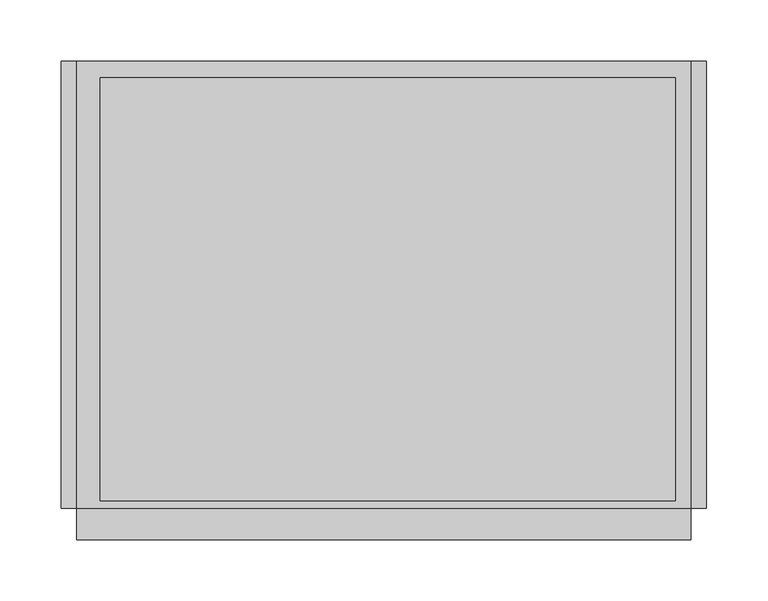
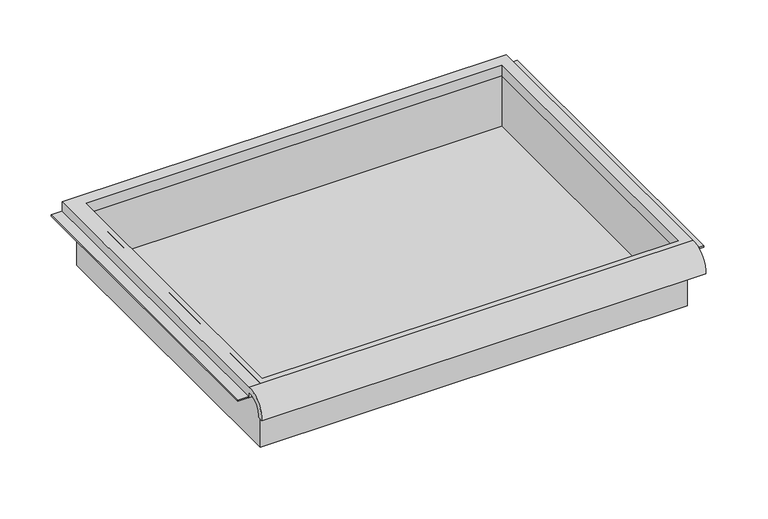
"""IFC4 building model written with IfcOpenShell, lengths in millimetres: furniture geometry."""

from ifc_helpers import new_model, si_unit, frame, origin, place, context, project, spatial, polyline, circle_curve, faceted_brep, source, transform, mapped, element, save
from ifc_brep_helpers import plane_surface, cylinder_surface, revolved_surface, advanced_brep


def furniture_c484342d(model_context):
    return source(origin(), model_context, "Body", "SolidModel", [
        advanced_brep(
        [(263.7474999, -195.297482, 967.5849518), (263.7474999, -188.9125, 967.5849518), (263.7474999, -169.8625, 985.846425), (263.7474999, -169.8625, 979.4964246), (263.7474999, 195.2625, 979.4964246), (263.7474999, 195.2625, 992.196425), (263.7474999, -169.8625, 992.196425), (-237.9025001, -195.297482, 967.5849518), (-237.9025001, -169.8625, 992.196425), (-237.9025001, 195.2625, 992.196425), (-237.9025001, 195.2625, 979.4964246), (-237.9025001, -169.8625, 979.4964246), (-237.9025001, -169.8625, 985.846425), (-237.9025001, -188.9125, 967.5849518), (251.0474878, 181.9275, 979.4964246), (-218.8095642, 181.9275, 979.4964246), (-218.8095642, -163.5125, 979.4964246), (251.0474878, -163.5125, 979.4964246), (-218.8095642, 181.9275, 992.196425), (251.0474878, 181.9275, 992.196425), (251.0474878, -163.5125, 992.196425), (-218.8095642, -163.5125, 992.196425)],
        [
            (0, 1),
            (1, 2, circle_curve(frame((263.7474999, -172.3404634, 969.3643622), z_axis=(-1.0, 0.0, 0.0), x_axis=(0.0, 1.0, 0.0)), 16.6672942)),
            (2, 3),
            (3, 4),
            (4, 5),
            (5, 6),
            (6, 0, circle_curve(frame((263.7474999, -172.4601678, 969.4322522), z_axis=(1.0, 0.0, 0.0), x_axis=(0.0, 1.0, 0.0)), 22.9119061)),
            (7, 8, circle_curve(frame((-237.9025001, -172.4601678, 969.4322522), z_axis=(-1.0, 0.0, 0.0), x_axis=(0.0, 1.0, 0.0)), 22.9119061)),
            (8, 9),
            (9, 10),
            (10, 11),
            (11, 12),
            (12, 13, circle_curve(frame((-237.9025001, -172.3404634, 969.3643622), z_axis=(1.0, 0.0, 0.0), x_axis=(0.0, 1.0, 0.0)), 16.6672942)),
            (13, 7),
            (0, 7),
            (13, 1),
            (12, 2),
            (11, 3),
            (10, 4),
            (14, 15),
            (15, 16),
            (16, 17),
            (17, 14),
            (9, 5),
            (8, 6),
            (18, 19),
            (19, 20),
            (20, 21),
            (21, 18),
            (14, 19),
            (18, 15),
            (21, 16),
            (20, 17),
        ],
        [
            plane_surface(frame((263.7474999, -195.297482, 967.5849518), z_axis=(1.0, 0.0, 0.0), x_axis=(0.0, 1.0, 0.0))),
            plane_surface(frame((-237.9025001, -195.297482, 967.5849518), z_axis=(-1.0, 0.0, 0.0), x_axis=(0.0, -1.0, 0.0))),
            plane_surface(frame((263.7474999, -195.297482, 967.5849518), z_axis=(0.0, 0.0, -1.0), x_axis=(-1.0, 0.0, 0.0))),
            revolved_surface(polyline([(-237.9025001, -155.67316920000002, 969.3643622), (263.7474999, -155.67316920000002, 969.3643622)]), (-237.9025001, -172.3404634, 969.3643622), (-1.0, 0.0, 0.0)),
            plane_surface(frame((263.7474999, -169.8625, 985.846425), z_axis=(0.0, -1.0, 0.0), x_axis=(-1.0, 0.0, 0.0))),
            plane_surface(frame((263.7474999, -169.8625, 979.4964246), z_axis=(0.0, 0.0, -1.0), x_axis=(-1.0, 0.0, 0.0))),
            plane_surface(frame((263.7474999, 195.2625, 979.4964246), z_axis=(0.0, 1.0, 0.0), x_axis=(-1.0, 0.0, 0.0))),
            plane_surface(frame((263.7474999, 195.2625, 992.196425), z_axis=(0.0, 0.0, 1.0), x_axis=(-1.0, 0.0, 0.0))),
            cylinder_surface(frame((-237.9025001, -172.4601678, 969.4322522), z_axis=(1.0, 0.0, 0.0), x_axis=(0.0, 1.0, 0.0)), 22.9119061),
            plane_surface(frame((251.0474878, 181.9275, 992.196425), z_axis=(0.0, -1.0, 0.0), x_axis=(0.0, 0.0, -1.0))),
            plane_surface(frame((-218.8095642, 181.9275, 992.196425), z_axis=(1.0, 0.0, 0.0), x_axis=(0.0, 0.0, -1.0))),
            plane_surface(frame((-218.8095642, -163.5125, 992.196425), z_axis=(0.0, 1.0, 0.0), x_axis=(0.0, 0.0, -1.0))),
            plane_surface(frame((251.0474878, -163.5125, 992.196425), z_axis=(-1.0, 0.0, 0.0), x_axis=(0.0, 0.0, -1.0))),
        ],
        [
            (0, [[1, 2, 3, 4, 5, 6, 7]]),
            (1, [[8, 9, 10, 11, 12, 13, 14]]),
            (2, [[-1, 15, -14, 16]]),
            (3, [[-2, -16, -13, 17]]),
            (4, [[-3, -17, -12, 18]]),
            (5, [[-4, -18, -11, 19], [20, 21, 22, 23]]),
            (6, [[-5, -19, -10, 24]]),
            (7, [[-6, -24, -9, 25], [26, 27, 28, 29]]),
            (8, [[-7, -25, -8, -15]]),
            (9, [[30, -26, 31, -20]]),
            (10, [[-31, -29, 32, -21]]),
            (11, [[-32, -28, 33, -22]]),
            (12, [[-30, -23, -33, -27]]),
        ],
    ),
        faceted_brep([(-225.2025001, -169.8625, 915.996425), (257.3974878, -169.8625, 915.996425), (257.3974878, -169.8625, 992.196425), (-225.2025001, -169.8625, 992.196425), (-225.2025001, 188.9125, 915.996425), (-225.2025001, 188.9125, 992.196425), (257.3974878, 188.9125, 992.196425), (257.3974878, 188.9125, 915.996425), (-218.8095642, 181.9275, 992.196425), (251.0474878, 181.9275, 992.196425), (251.0474878, -163.5125, 992.196425), (-218.8095642, -163.5125, 992.196425), (251.0474878, 181.9275, 919.171425), (-218.8095642, 181.9275, 919.171425), (-218.8095642, -163.5125, 919.171425), (251.0474878, -163.5125, 919.171425)], [[[0, 1, 2, 3]], [[4, 5, 6, 7]], [[1, 0, 4, 7]], [[2, 1, 7, 6]], [[3, 2, 6, 5], [8, 9, 10, 11]], [[0, 3, 5, 4]], [[12, 13, 14, 15]], [[13, 12, 9, 8]], [[14, 13, 8, 11]], [[15, 14, 11, 10]], [[12, 15, 10, 9]]]),
        faceted_brep([(-250.6025001, 195.2625, 979.4964246), (-250.6025001, 195.2625, 981.0839246), (-231.5525001, 195.2625, 981.0839246), (-231.5525001, 195.2625, 979.4964246), (-250.6025001, -169.8625, 979.4964246), (-231.5525001, -169.8625, 979.4964246), (-231.5525001, -169.8625, 981.0839246), (-250.6025001, -169.8625, 981.0839246)], [[[0, 1, 2, 3]], [[4, 5, 6, 7]], [[1, 0, 4, 7]], [[2, 1, 7, 6]], [[3, 2, 6, 5]], [[0, 3, 5, 4]]]),
        faceted_brep([(276.4474999, 195.2625, 979.4964246), (263.7474999, 195.2625, 979.4964246), (263.7474999, 195.2625, 981.0839246), (276.4474999, 195.2625, 981.0839246), (276.4474999, -169.8625, 979.4964246), (276.4474999, -169.8625, 981.0839246), (263.7474999, -169.8625, 981.0839246), (263.7474999, -169.8625, 979.4964246)], [[[0, 1, 2, 3]], [[4, 5, 6, 7]], [[1, 0, 4, 7]], [[2, 1, 7, 6]], [[3, 2, 6, 5]], [[0, 3, 5, 4]]]),
    ])


if __name__ == "__main__":
    model = new_model("IFC4")
    model_context = context("Model", 3, world=origin())
    ifc_project = project(units=[si_unit("LENGTHUNIT", "METRE", prefix="MILLI")], contexts=[model_context])
    site = spatial("IfcSite", under=ifc_project)
    building = spatial("IfcBuilding", under=site)
    placement = place(None, origin())
    furniture_shape = furniture_c484342d(model_context)
    element("IfcFurniture", 1, ObjectType="HermanMiller_Carts_CT501_Drawer : 3\"H x 15\"D x 20\"W", at=placement, inside=building, context=model_context, shape_type="MappedRepresentation", body=[
        mapped(furniture_shape, transform((0.0, 0.0, 0.0), x_axis=(1.0, 0.0, 0.0), y_axis=(0.0, 1.0, 0.0), z_axis=(0.0, 0.0, 1.0))),
    ])
    save(model, "model.ifc")
